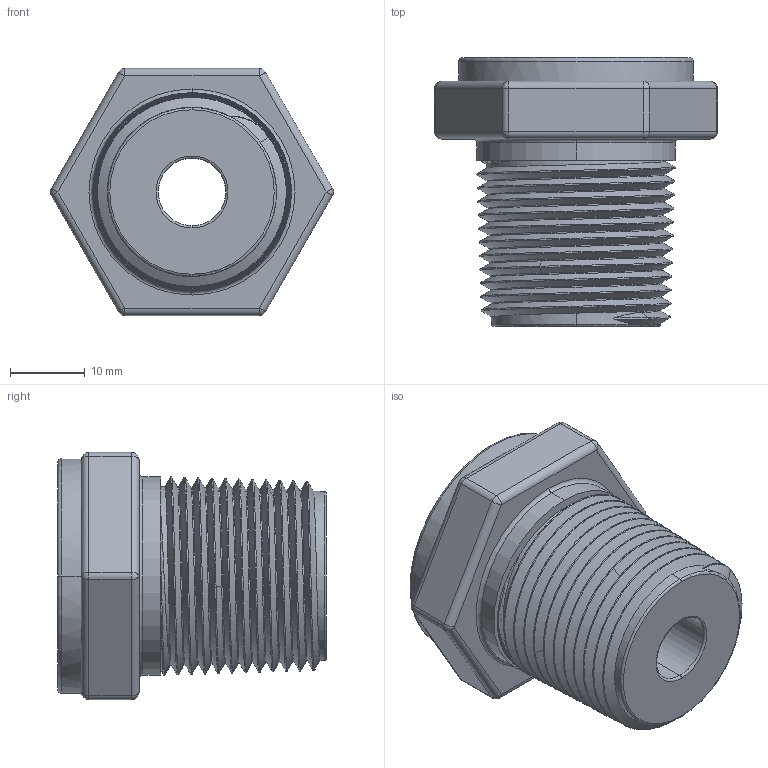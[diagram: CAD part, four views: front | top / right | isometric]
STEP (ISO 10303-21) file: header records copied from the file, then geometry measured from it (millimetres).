
FILE_DESCRIPTION(/* description */ ('Alibre Inc.'),/* implementation_level */ '2;1');
FILE_NAME(/* name */ 'export0',/* time_stamp */ '2019-10-18T10:34:49-04:00',/* author */ (''),/* organization */ (''),/* preprocessor_version */ 'ST-DEVELOPER v17',/* originating_system */ 'Alibre',/* authorisation */ '');
FILE_SCHEMA (('CONFIG_CONTROL_DESIGN'));
Length unit declared in the file: inch
Products named in the file (1): 200-62270-1000C
Bounding box: 37.77 x 35.86 x 32.98 mm (x, y, z)
Volume: 18576.3 mm3; surface area: 7604.1 mm2
Topology: 1 solids, 1 shells, 141 faces, 358 edges, 212 vertices
Faces by surface type: cone 52, bspline 26, cylinder 24, plane 17, sphere 12, torus 10
Entity records: 29703 total; most frequent: CARTESIAN_POINT 26943, ORIENTED_EDGE 696, DIRECTION 357, EDGE_CURVE 348, VERTEX_POINT 212, B_SPLINE_CURVE_WITH_KNOTS 168, EDGE_LOOP 146, FACE_BOUND 146
